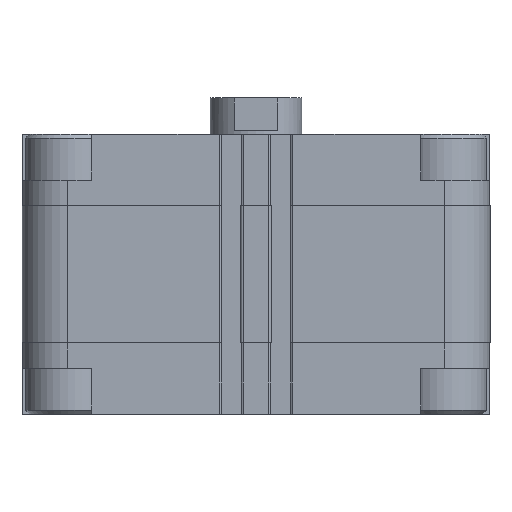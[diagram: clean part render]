
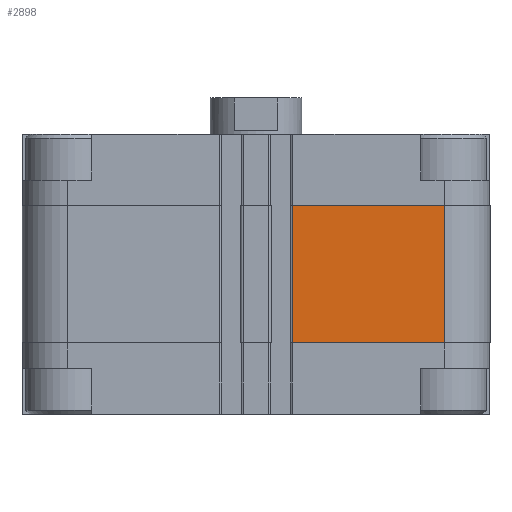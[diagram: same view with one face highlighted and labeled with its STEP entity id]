
A CAD part, front view. The second image highlights one B-rep face of the part: STEP entity #2898.
In plain terms, the highlighted planar face has unit normal (0, -1, 0).
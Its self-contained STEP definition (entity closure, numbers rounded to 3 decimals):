
#17 = LINE ( 'NONE', #7719, #3465 ) ;
#181 = EDGE_LOOP ( 'NONE', ( #2357, #1620, #14020, #9782 ) ) ;
#225 = DIRECTION ( 'NONE',  ( 1., 0., 0. ) ) ;
#748 = AXIS2_PLACEMENT_3D ( 'NONE', #18613, #13981, #5741 ) ;
#1620 = ORIENTED_EDGE ( 'NONE', *, *, #18197, .F. ) ;
#2357 = ORIENTED_EDGE ( 'NONE', *, *, #9729, .F. ) ;
#2678 = FACE_OUTER_BOUND ( 'NONE', #181, .T. ) ;
#2898 = ADVANCED_FACE ( 'NONE', ( #2678 ), #13672, .T. ) ;
#3465 = VECTOR ( 'NONE', #20696, 1000. ) ;
#4060 = EDGE_CURVE ( 'NONE', #5790, #10041, #19929, .T. ) ;
#5741 = DIRECTION ( 'NONE',  ( -1., 0., 0. ) ) ;
#5790 = VERTEX_POINT ( 'NONE', #18851 ) ;
#6239 = CARTESIAN_POINT ( 'NONE',  ( 51.5, -64., -57. ) ) ;
#6345 = LINE ( 'NONE', #6239, #8866 ) ;
#6922 = LINE ( 'NONE', #8726, #13016 ) ;
#7719 = CARTESIAN_POINT ( 'NONE',  ( 9.95, -64., -57. ) ) ;
#8726 = CARTESIAN_POINT ( 'NONE',  ( 9.95, -64., -19.5 ) ) ;
#8866 = VECTOR ( 'NONE', #16166, 1000. ) ;
#9729 = EDGE_CURVE ( 'NONE', #20051, #19896, #6922, .T. ) ;
#9782 = ORIENTED_EDGE ( 'NONE', *, *, #18249, .T. ) ;
#10041 = VERTEX_POINT ( 'NONE', #16614 ) ;
#13016 = VECTOR ( 'NONE', #19817, 1000. ) ;
#13672 = PLANE ( 'NONE',  #748 ) ;
#13981 = DIRECTION ( 'NONE',  ( 0., -1., 0. ) ) ;
#14020 = ORIENTED_EDGE ( 'NONE', *, *, #4060, .T. ) ;
#14678 = CARTESIAN_POINT ( 'NONE',  ( 9.95, -64., -57. ) ) ;
#16166 = DIRECTION ( 'NONE',  ( 0., 0., 1. ) ) ;
#16614 = CARTESIAN_POINT ( 'NONE',  ( 51.5, -64., -57. ) ) ;
#18194 = CARTESIAN_POINT ( 'NONE',  ( 51.5, -64., -19.5 ) ) ;
#18197 = EDGE_CURVE ( 'NONE', #5790, #20051, #17, .T. ) ;
#18249 = EDGE_CURVE ( 'NONE', #10041, #19896, #6345, .T. ) ;
#18613 = CARTESIAN_POINT ( 'NONE',  ( 9.95, -64., -57. ) ) ;
#18851 = CARTESIAN_POINT ( 'NONE',  ( 9.95, -64., -57. ) ) ;
#19759 = VECTOR ( 'NONE', #225, 1000. ) ;
#19817 = DIRECTION ( 'NONE',  ( 1., 0., 0. ) ) ;
#19896 = VERTEX_POINT ( 'NONE', #18194 ) ;
#19929 = LINE ( 'NONE', #14678, #19759 ) ;
#20051 = VERTEX_POINT ( 'NONE', #20505 ) ;
#20505 = CARTESIAN_POINT ( 'NONE',  ( 9.95, -64., -19.5 ) ) ;
#20696 = DIRECTION ( 'NONE',  ( 0., 0., 1. ) ) ;
